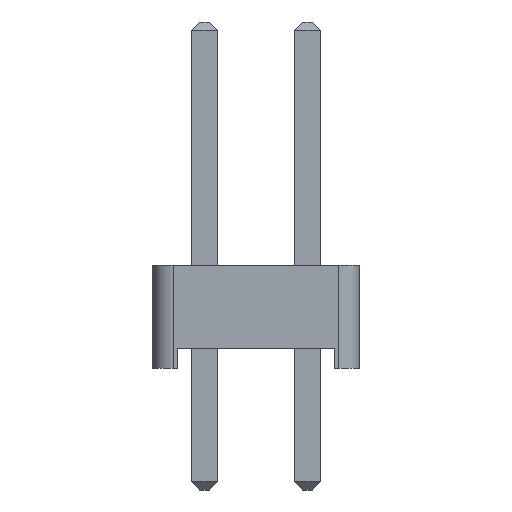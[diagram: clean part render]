
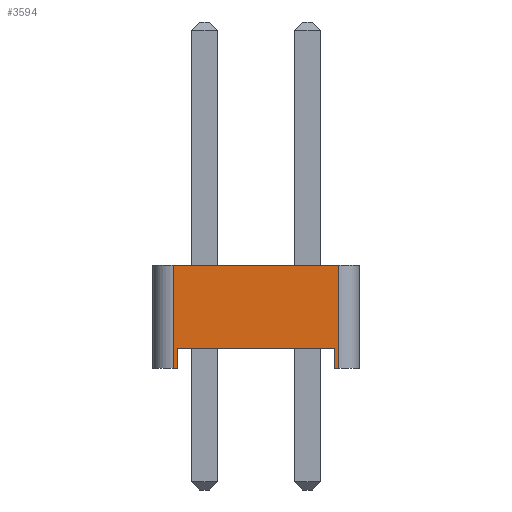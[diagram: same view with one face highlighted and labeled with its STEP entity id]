
A CAD part, left-side view. The second image highlights one B-rep face of the part: STEP entity #3594.
In plain terms, the highlighted planar face has unit normal (-1, 0, 0).
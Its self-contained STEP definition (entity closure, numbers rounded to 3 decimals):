
#3334 = VERTEX_POINT('',#3335);
#3335 = CARTESIAN_POINT('',(-1.27,2.04,0.));
#3343 = PLANE('',#3344);
#3344 = AXIS2_PLACEMENT_3D('',#3345,#3346,#3347);
#3345 = CARTESIAN_POINT('',(0.,0.,0.));
#3346 = DIRECTION('',(-0.,-0.,-1.));
#3347 = DIRECTION('',(-1.,0.,0.));
#3359 = CYLINDRICAL_SURFACE('',#3360,0.5);
#3360 = AXIS2_PLACEMENT_3D('',#3361,#3362,#3363);
#3361 = CARTESIAN_POINT('',(-0.77,2.04,0.));
#3362 = DIRECTION('',(0.,0.,1.));
#3363 = DIRECTION('',(0.,1.,0.));
#3461 = VERTEX_POINT('',#3462);
#3462 = CARTESIAN_POINT('',(-1.27,1.94,0.));
#3476 = PLANE('',#3477);
#3477 = AXIS2_PLACEMENT_3D('',#3478,#3479,#3480);
#3478 = CARTESIAN_POINT('',(1.27,1.94,0.));
#3479 = DIRECTION('',(0.,-1.,0.));
#3480 = DIRECTION('',(-1.,0.,0.));
#3488 = EDGE_CURVE('',#3461,#3334,#3489,.T.);
#3489 = SURFACE_CURVE('',#3490,(#3494,#3501),.PCURVE_S1.);
#3490 = LINE('',#3491,#3492);
#3491 = CARTESIAN_POINT('',(-1.27,-2.54,0.));
#3492 = VECTOR('',#3493,1.);
#3493 = DIRECTION('',(0.,1.,0.));
#3494 = PCURVE('',#3343,#3495);
#3495 = DEFINITIONAL_REPRESENTATION('',(#3496),#3500);
#3496 = LINE('',#3497,#3498);
#3497 = CARTESIAN_POINT('',(1.27,-2.54));
#3498 = VECTOR('',#3499,1.);
#3499 = DIRECTION('',(0.,1.));
#3500 = ( GEOMETRIC_REPRESENTATION_CONTEXT(2) 
PARAMETRIC_REPRESENTATION_CONTEXT() REPRESENTATION_CONTEXT('2D SPACE',''
  ) );
#3501 = PCURVE('',#3502,#3507);
#3502 = PLANE('',#3503);
#3503 = AXIS2_PLACEMENT_3D('',#3504,#3505,#3506);
#3504 = CARTESIAN_POINT('',(-1.27,-2.54,0.));
#3505 = DIRECTION('',(-1.,0.,0.));
#3506 = DIRECTION('',(0.,1.,0.));
#3507 = DEFINITIONAL_REPRESENTATION('',(#3508),#3512);
#3508 = LINE('',#3509,#3510);
#3509 = CARTESIAN_POINT('',(0.,0.));
#3510 = VECTOR('',#3511,1.);
#3511 = DIRECTION('',(1.,0.));
#3512 = ( GEOMETRIC_REPRESENTATION_CONTEXT(2) 
PARAMETRIC_REPRESENTATION_CONTEXT() REPRESENTATION_CONTEXT('2D SPACE',''
  ) );
#3518 = EDGE_CURVE('',#3334,#3519,#3521,.T.);
#3519 = VERTEX_POINT('',#3520);
#3520 = CARTESIAN_POINT('',(-1.27,2.04,2.54));
#3521 = SURFACE_CURVE('',#3522,(#3526,#3533),.PCURVE_S1.);
#3522 = LINE('',#3523,#3524);
#3523 = CARTESIAN_POINT('',(-1.27,2.04,0.));
#3524 = VECTOR('',#3525,1.);
#3525 = DIRECTION('',(0.,0.,1.));
#3526 = PCURVE('',#3359,#3527);
#3527 = DEFINITIONAL_REPRESENTATION('',(#3528),#3532);
#3528 = LINE('',#3529,#3530);
#3529 = CARTESIAN_POINT('',(1.571,0.));
#3530 = VECTOR('',#3531,1.);
#3531 = DIRECTION('',(0.,1.));
#3532 = ( GEOMETRIC_REPRESENTATION_CONTEXT(2) 
PARAMETRIC_REPRESENTATION_CONTEXT() REPRESENTATION_CONTEXT('2D SPACE',''
  ) );
#3533 = PCURVE('',#3502,#3534);
#3534 = DEFINITIONAL_REPRESENTATION('',(#3535),#3539);
#3535 = LINE('',#3536,#3537);
#3536 = CARTESIAN_POINT('',(4.58,0.));
#3537 = VECTOR('',#3538,1.);
#3538 = DIRECTION('',(0.,-1.));
#3539 = ( GEOMETRIC_REPRESENTATION_CONTEXT(2) 
PARAMETRIC_REPRESENTATION_CONTEXT() REPRESENTATION_CONTEXT('2D SPACE',''
  ) );
#3558 = PLANE('',#3559);
#3559 = AXIS2_PLACEMENT_3D('',#3560,#3561,#3562);
#3560 = CARTESIAN_POINT('',(0.,0.,2.54));
#3561 = DIRECTION('',(-0.,-0.,-1.));
#3562 = DIRECTION('',(-1.,0.,0.));
#3594 = ADVANCED_FACE('',(#3595),#3502,.T.);
#3595 = FACE_BOUND('',#3596,.T.);
#3596 = EDGE_LOOP('',(#3597,#3627,#3655,#3676,#3677,#3678,#3701,#3729));
#3597 = ORIENTED_EDGE('',*,*,#3598,.F.);
#3598 = EDGE_CURVE('',#3599,#3601,#3603,.T.);
#3599 = VERTEX_POINT('',#3600);
#3600 = CARTESIAN_POINT('',(-1.27,-2.04,0.));
#3601 = VERTEX_POINT('',#3602);
#3602 = CARTESIAN_POINT('',(-1.27,-1.94,0.));
#3603 = SURFACE_CURVE('',#3604,(#3608,#3615),.PCURVE_S1.);
#3604 = LINE('',#3605,#3606);
#3605 = CARTESIAN_POINT('',(-1.27,-2.54,0.));
#3606 = VECTOR('',#3607,1.);
#3607 = DIRECTION('',(0.,1.,0.));
#3608 = PCURVE('',#3502,#3609);
#3609 = DEFINITIONAL_REPRESENTATION('',(#3610),#3614);
#3610 = LINE('',#3611,#3612);
#3611 = CARTESIAN_POINT('',(0.,0.));
#3612 = VECTOR('',#3613,1.);
#3613 = DIRECTION('',(1.,0.));
#3614 = ( GEOMETRIC_REPRESENTATION_CONTEXT(2) 
PARAMETRIC_REPRESENTATION_CONTEXT() REPRESENTATION_CONTEXT('2D SPACE',''
  ) );
#3615 = PCURVE('',#3616,#3621);
#3616 = PLANE('',#3617);
#3617 = AXIS2_PLACEMENT_3D('',#3618,#3619,#3620);
#3618 = CARTESIAN_POINT('',(0.,0.,0.));
#3619 = DIRECTION('',(-0.,-0.,-1.));
#3620 = DIRECTION('',(-1.,0.,0.));
#3621 = DEFINITIONAL_REPRESENTATION('',(#3622),#3626);
#3622 = LINE('',#3623,#3624);
#3623 = CARTESIAN_POINT('',(1.27,-2.54));
#3624 = VECTOR('',#3625,1.);
#3625 = DIRECTION('',(0.,1.));
#3626 = ( GEOMETRIC_REPRESENTATION_CONTEXT(2) 
PARAMETRIC_REPRESENTATION_CONTEXT() REPRESENTATION_CONTEXT('2D SPACE',''
  ) );
#3627 = ORIENTED_EDGE('',*,*,#3628,.T.);
#3628 = EDGE_CURVE('',#3599,#3629,#3631,.T.);
#3629 = VERTEX_POINT('',#3630);
#3630 = CARTESIAN_POINT('',(-1.27,-2.04,2.54));
#3631 = SURFACE_CURVE('',#3632,(#3636,#3643),.PCURVE_S1.);
#3632 = LINE('',#3633,#3634);
#3633 = CARTESIAN_POINT('',(-1.27,-2.04,0.));
#3634 = VECTOR('',#3635,1.);
#3635 = DIRECTION('',(0.,0.,1.));
#3636 = PCURVE('',#3502,#3637);
#3637 = DEFINITIONAL_REPRESENTATION('',(#3638),#3642);
#3638 = LINE('',#3639,#3640);
#3639 = CARTESIAN_POINT('',(0.5,0.));
#3640 = VECTOR('',#3641,1.);
#3641 = DIRECTION('',(0.,-1.));
#3642 = ( GEOMETRIC_REPRESENTATION_CONTEXT(2) 
PARAMETRIC_REPRESENTATION_CONTEXT() REPRESENTATION_CONTEXT('2D SPACE',''
  ) );
#3643 = PCURVE('',#3644,#3649);
#3644 = CYLINDRICAL_SURFACE('',#3645,0.5);
#3645 = AXIS2_PLACEMENT_3D('',#3646,#3647,#3648);
#3646 = CARTESIAN_POINT('',(-0.77,-2.04,0.));
#3647 = DIRECTION('',(0.,0.,1.));
#3648 = DIRECTION('',(0.,-1.,0.));
#3649 = DEFINITIONAL_REPRESENTATION('',(#3650),#3654);
#3650 = LINE('',#3651,#3652);
#3651 = CARTESIAN_POINT('',(-1.571,0.));
#3652 = VECTOR('',#3653,1.);
#3653 = DIRECTION('',(-0.,1.));
#3654 = ( GEOMETRIC_REPRESENTATION_CONTEXT(2) 
PARAMETRIC_REPRESENTATION_CONTEXT() REPRESENTATION_CONTEXT('2D SPACE',''
  ) );
#3655 = ORIENTED_EDGE('',*,*,#3656,.T.);
#3656 = EDGE_CURVE('',#3629,#3519,#3657,.T.);
#3657 = SURFACE_CURVE('',#3658,(#3662,#3669),.PCURVE_S1.);
#3658 = LINE('',#3659,#3660);
#3659 = CARTESIAN_POINT('',(-1.27,-2.54,2.54));
#3660 = VECTOR('',#3661,1.);
#3661 = DIRECTION('',(0.,1.,0.));
#3662 = PCURVE('',#3502,#3663);
#3663 = DEFINITIONAL_REPRESENTATION('',(#3664),#3668);
#3664 = LINE('',#3665,#3666);
#3665 = CARTESIAN_POINT('',(0.,-2.54));
#3666 = VECTOR('',#3667,1.);
#3667 = DIRECTION('',(1.,0.));
#3668 = ( GEOMETRIC_REPRESENTATION_CONTEXT(2) 
PARAMETRIC_REPRESENTATION_CONTEXT() REPRESENTATION_CONTEXT('2D SPACE',''
  ) );
#3669 = PCURVE('',#3558,#3670);
#3670 = DEFINITIONAL_REPRESENTATION('',(#3671),#3675);
#3671 = LINE('',#3672,#3673);
#3672 = CARTESIAN_POINT('',(1.27,-2.54));
#3673 = VECTOR('',#3674,1.);
#3674 = DIRECTION('',(0.,1.));
#3675 = ( GEOMETRIC_REPRESENTATION_CONTEXT(2) 
PARAMETRIC_REPRESENTATION_CONTEXT() REPRESENTATION_CONTEXT('2D SPACE',''
  ) );
#3676 = ORIENTED_EDGE('',*,*,#3518,.F.);
#3677 = ORIENTED_EDGE('',*,*,#3488,.F.);
#3678 = ORIENTED_EDGE('',*,*,#3679,.T.);
#3679 = EDGE_CURVE('',#3461,#3680,#3682,.T.);
#3680 = VERTEX_POINT('',#3681);
#3681 = CARTESIAN_POINT('',(-1.27,1.94,0.5));
#3682 = SURFACE_CURVE('',#3683,(#3687,#3694),.PCURVE_S1.);
#3683 = LINE('',#3684,#3685);
#3684 = CARTESIAN_POINT('',(-1.27,1.94,0.));
#3685 = VECTOR('',#3686,1.);
#3686 = DIRECTION('',(0.,0.,1.));
#3687 = PCURVE('',#3502,#3688);
#3688 = DEFINITIONAL_REPRESENTATION('',(#3689),#3693);
#3689 = LINE('',#3690,#3691);
#3690 = CARTESIAN_POINT('',(4.48,0.));
#3691 = VECTOR('',#3692,1.);
#3692 = DIRECTION('',(0.,-1.));
#3693 = ( GEOMETRIC_REPRESENTATION_CONTEXT(2) 
PARAMETRIC_REPRESENTATION_CONTEXT() REPRESENTATION_CONTEXT('2D SPACE',''
  ) );
#3694 = PCURVE('',#3476,#3695);
#3695 = DEFINITIONAL_REPRESENTATION('',(#3696),#3700);
#3696 = LINE('',#3697,#3698);
#3697 = CARTESIAN_POINT('',(2.54,0.));
#3698 = VECTOR('',#3699,1.);
#3699 = DIRECTION('',(0.,-1.));
#3700 = ( GEOMETRIC_REPRESENTATION_CONTEXT(2) 
PARAMETRIC_REPRESENTATION_CONTEXT() REPRESENTATION_CONTEXT('2D SPACE',''
  ) );
#3701 = ORIENTED_EDGE('',*,*,#3702,.T.);
#3702 = EDGE_CURVE('',#3680,#3703,#3705,.T.);
#3703 = VERTEX_POINT('',#3704);
#3704 = CARTESIAN_POINT('',(-1.27,-1.94,0.5));
#3705 = SURFACE_CURVE('',#3706,(#3710,#3717),.PCURVE_S1.);
#3706 = LINE('',#3707,#3708);
#3707 = CARTESIAN_POINT('',(-1.27,1.94,0.5));
#3708 = VECTOR('',#3709,1.);
#3709 = DIRECTION('',(0.,-1.,0.));
#3710 = PCURVE('',#3502,#3711);
#3711 = DEFINITIONAL_REPRESENTATION('',(#3712),#3716);
#3712 = LINE('',#3713,#3714);
#3713 = CARTESIAN_POINT('',(4.48,-0.5));
#3714 = VECTOR('',#3715,1.);
#3715 = DIRECTION('',(-1.,0.));
#3716 = ( GEOMETRIC_REPRESENTATION_CONTEXT(2) 
PARAMETRIC_REPRESENTATION_CONTEXT() REPRESENTATION_CONTEXT('2D SPACE',''
  ) );
#3717 = PCURVE('',#3718,#3723);
#3718 = PLANE('',#3719);
#3719 = AXIS2_PLACEMENT_3D('',#3720,#3721,#3722);
#3720 = CARTESIAN_POINT('',(0.,0.,0.5));
#3721 = DIRECTION('',(0.,0.,1.));
#3722 = DIRECTION('',(1.,0.,0.));
#3723 = DEFINITIONAL_REPRESENTATION('',(#3724),#3728);
#3724 = LINE('',#3725,#3726);
#3725 = CARTESIAN_POINT('',(-1.27,1.94));
#3726 = VECTOR('',#3727,1.);
#3727 = DIRECTION('',(0.,-1.));
#3728 = ( GEOMETRIC_REPRESENTATION_CONTEXT(2) 
PARAMETRIC_REPRESENTATION_CONTEXT() REPRESENTATION_CONTEXT('2D SPACE',''
  ) );
#3729 = ORIENTED_EDGE('',*,*,#3730,.F.);
#3730 = EDGE_CURVE('',#3601,#3703,#3731,.T.);
#3731 = SURFACE_CURVE('',#3732,(#3736,#3743),.PCURVE_S1.);
#3732 = LINE('',#3733,#3734);
#3733 = CARTESIAN_POINT('',(-1.27,-1.94,0.));
#3734 = VECTOR('',#3735,1.);
#3735 = DIRECTION('',(0.,0.,1.));
#3736 = PCURVE('',#3502,#3737);
#3737 = DEFINITIONAL_REPRESENTATION('',(#3738),#3742);
#3738 = LINE('',#3739,#3740);
#3739 = CARTESIAN_POINT('',(0.6,0.));
#3740 = VECTOR('',#3741,1.);
#3741 = DIRECTION('',(0.,-1.));
#3742 = ( GEOMETRIC_REPRESENTATION_CONTEXT(2) 
PARAMETRIC_REPRESENTATION_CONTEXT() REPRESENTATION_CONTEXT('2D SPACE',''
  ) );
#3743 = PCURVE('',#3744,#3749);
#3744 = PLANE('',#3745);
#3745 = AXIS2_PLACEMENT_3D('',#3746,#3747,#3748);
#3746 = CARTESIAN_POINT('',(-1.27,-1.94,0.));
#3747 = DIRECTION('',(0.,1.,0.));
#3748 = DIRECTION('',(1.,0.,0.));
#3749 = DEFINITIONAL_REPRESENTATION('',(#3750),#3754);
#3750 = LINE('',#3751,#3752);
#3751 = CARTESIAN_POINT('',(0.,0.));
#3752 = VECTOR('',#3753,1.);
#3753 = DIRECTION('',(0.,-1.));
#3754 = ( GEOMETRIC_REPRESENTATION_CONTEXT(2) 
PARAMETRIC_REPRESENTATION_CONTEXT() REPRESENTATION_CONTEXT('2D SPACE',''
  ) );
